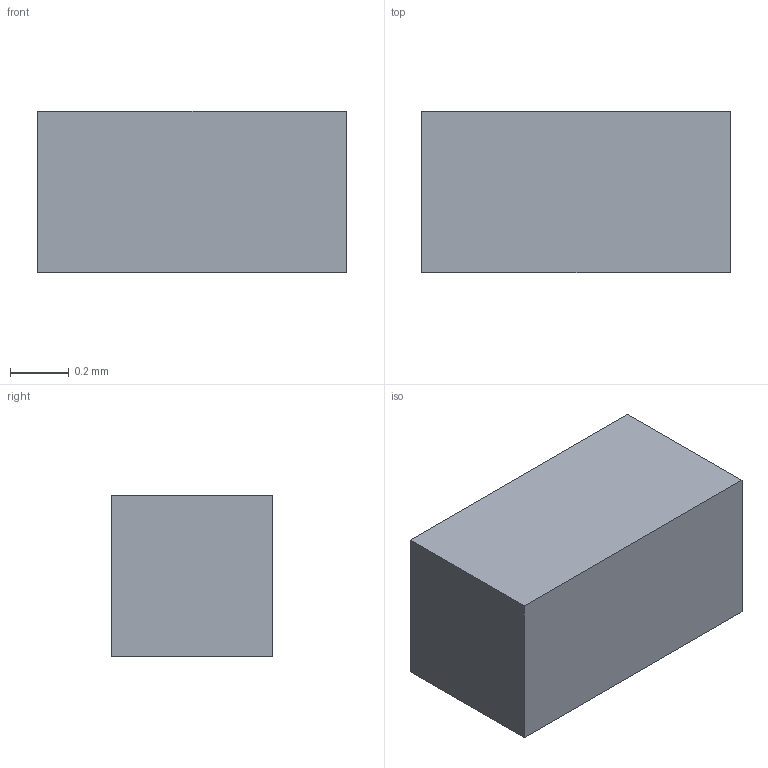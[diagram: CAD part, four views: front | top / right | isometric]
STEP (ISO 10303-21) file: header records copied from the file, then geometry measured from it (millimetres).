
FILE_DESCRIPTION(('Open CASCADE Model'),'2;1');
FILE_NAME('Open CASCADE Shape Model','2026-09-17T14:57:39',('Author'),( 'Open CASCADE'),'Open CASCADE STEP processor 7.8','Open CASCADE 7.8' ,'Unknown');
FILE_SCHEMA(('AUTOMOTIVE_DESIGN { 1 0 10303 214 1 1 1 1 }'));
Length unit declared in the file: millimetre
Products named in the file (1): Open CASCADE STEP translator 7.8 9
Bounding box: 1.05 x 0.55 x 0.55 mm (x, y, z)
Volume: 0.3 mm3; surface area: 2.9 mm2
Topology: 1 solids, 1 shells, 6 faces, 12 edges, 8 vertices
Faces by surface type: plane 6
Entity records: 322 total; most frequent: CARTESIAN_POINT 51, DIRECTION 50, LINE 36, VECTOR 36, ORIENTED_EDGE 24, PCURVE 24, DEFINITIONAL_REPRESENTATION 24, EDGE_CURVE 12
